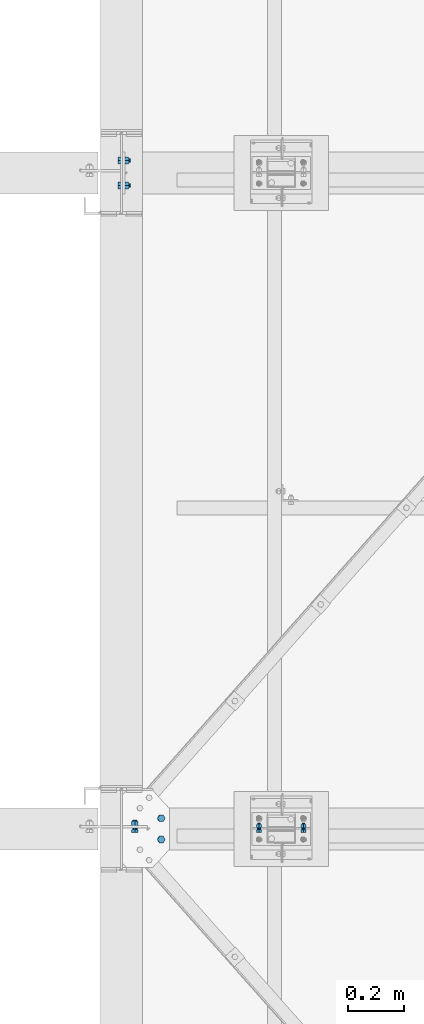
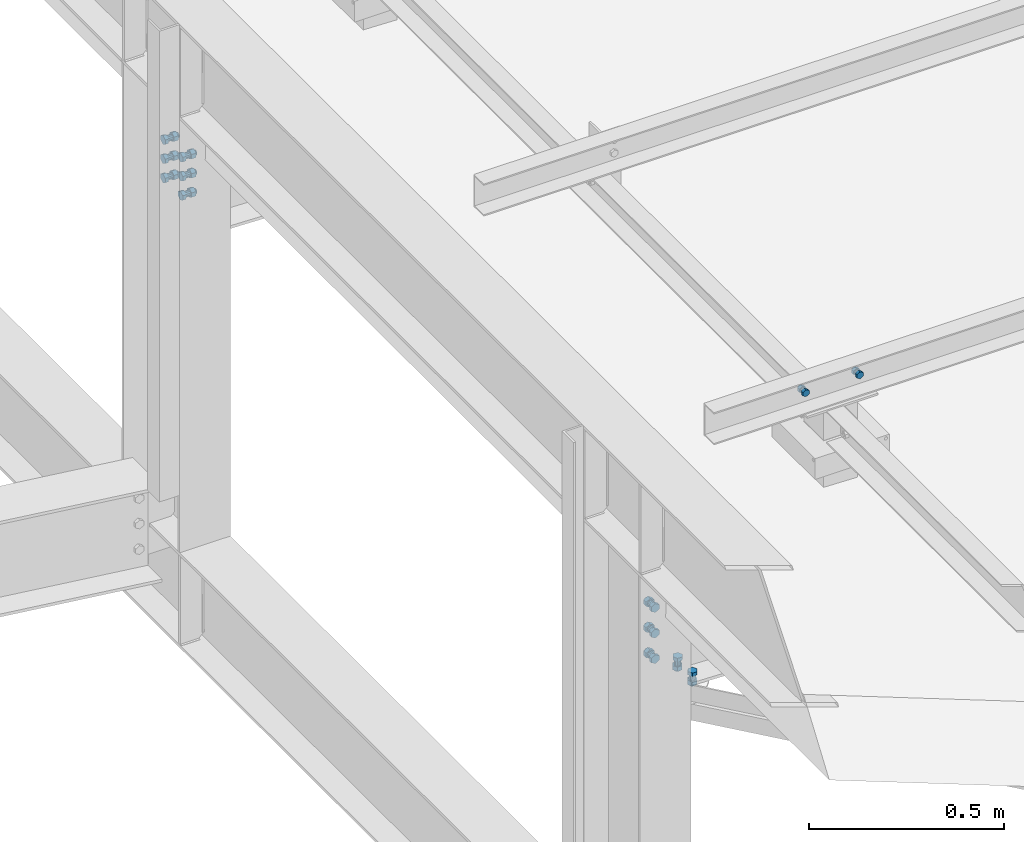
# One storey, part 324 of 3134: 4 mechanical fasteners, 2 elements without a shape of their own.
"""IFC2X3 building model written with IfcOpenShell, lengths in millimetres."""

from ifc_helpers import new_model, si_unit, frame, origin_with_axes, place, context, subcontext, project, spatial, faceted_brep, source, transform, mapped, material, type_object, element, aggregate, save


model = new_model("IFC2X3")

# Units and contexts
model_context = context("Model", 3, precision=1e-05, world=origin_with_axes())
body_context = subcontext(model_context, "Body", "Model", "MODEL_VIEW")
ifc_project = project(units=[si_unit("LENGTHUNIT", "METRE", prefix="MILLI"), si_unit("AREAUNIT", "SQUARE_METRE"), si_unit("VOLUMEUNIT", "CUBIC_METRE"), si_unit("MASSUNIT", "GRAM", prefix="KILO"), si_unit("TIMEUNIT", "SECOND"), si_unit("PLANEANGLEUNIT", "RADIAN"), si_unit("SOLIDANGLEUNIT", "STERADIAN"), si_unit("THERMODYNAMICTEMPERATUREUNIT", "DEGREE_CELSIUS"), si_unit("LUMINOUSINTENSITYUNIT", "LUMEN")], contexts=[model_context])

# Site, building, storey
site_placement = place(None, origin_with_axes())
site = spatial("IfcSite", under=ifc_project, at=site_placement, CompositionType="ELEMENT")
building_placement = place(site_placement, origin_with_axes())
building = spatial("IfcBuilding", under=site, at=building_placement, Name="Undefined", CompositionType="ELEMENT")
storey_placement = place(building_placement, origin_with_axes())
storey = spatial("IfcBuildingStorey", under=building, at=storey_placement, Name="Undefined", CompositionType="ELEMENT", Elevation=0.0)

# Assembly, mechanical fastener
assembly_1_placement = place(storey_placement, origin_with_axes())
assembly_1 = element("IfcElementAssembly", 1, at=assembly_1_placement, inside=storey, Name="300", AssemblyPlace="NOTDEFINED", PredefinedType="RIGID_FRAME")
ifc_material = material(Name="8.8")
mechanical_fastener_type = type_object("IfcMechanicalFastenerType", Name="Bolt assembly")
shared_shape_1 = source(origin_with_axes(), body_context, "Body", "Brep", [
    faceted_brep([(13.856406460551, -23.1999997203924, 0.0), (6.92820323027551, -23.1999997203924, 12.0), (-6.92820323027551, -23.1999997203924, 12.0), (-13.856406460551, -23.1999997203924, 1.69692038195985e-15), (-6.92820323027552, -23.1999997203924, -12.0), (6.9282032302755, -23.1999997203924, -12.0), (6.9282032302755, -13.1999997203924, -12.0), (-6.92820323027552, -13.1999997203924, -12.0), (-13.856406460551, -13.1999997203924, 1.69692038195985e-15), (-6.92820323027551, -13.1999997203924, 12.0), (6.92820323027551, -13.1999997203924, 12.0), (13.856406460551, -13.1999997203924, 0.0), (8.0, -13.1999997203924, 0.0), (6.92820323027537, -13.1999997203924, 4.00000000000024), (3.99999999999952, -13.1999997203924, 6.92820323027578), (-8.29068785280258e-13, -13.1999997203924, 8.0), (-4.00000000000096, -13.1999997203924, 6.92820323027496), (-6.9282032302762, -13.1999997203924, 3.99999999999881), (-8.0, -13.1999997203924, -1.65813757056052e-12), (-6.92820323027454, -13.1999997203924, -4.00000000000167), (-3.99999999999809, -13.1999997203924, -6.92820323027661), (2.47832457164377e-12, -13.1999997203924, -8.0), (4.00000000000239, -13.1999997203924, -6.92820323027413), (6.92820323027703, -13.1999997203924, -3.99999999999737), (6.92820323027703, 21.8000002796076, -3.99999999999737), (4.00000000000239, 21.8000002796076, -6.92820323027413), (2.47832457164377e-12, 21.8000002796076, -8.0), (-3.99999999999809, 21.8000002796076, -6.92820323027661), (-6.92820323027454, 21.8000002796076, -4.00000000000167), (-8.0, 21.8000002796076, -1.65813757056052e-12), (-6.9282032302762, 21.8000002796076, 3.99999999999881), (-4.00000000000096, 21.8000002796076, 6.92820323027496), (-8.29068785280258e-13, 21.8000002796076, 8.0), (3.99999999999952, 21.8000002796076, 6.92820323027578), (6.92820323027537, 21.8000002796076, 4.00000000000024), (8.0, 21.8000002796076, 0.0), (13.856406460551, 3.99999999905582, 0.0), (6.92820323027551, 3.99999999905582, 12.0), (-6.92820323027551, 3.99999999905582, 12.0), (-13.856406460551, 3.99999999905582, 1.69692038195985e-15), (-6.92820323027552, 3.99999999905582, -12.0), (6.9282032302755, 3.99999999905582, -12.0), (6.9282032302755, 16.9999999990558, -12.0), (-6.92820323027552, 16.9999999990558, -12.0), (-13.856406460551, 16.9999999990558, 1.69692038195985e-15), (-6.92820323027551, 16.9999999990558, 12.0), (6.92820323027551, 16.9999999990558, 12.0), (13.856406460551, 16.9999999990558, 0.0)], [[[0, 1, 2, 3, 4, 5]], [[6, 7, 8, 9, 10, 11]], [[0, 11, 10, 1]], [[1, 10, 9, 2]], [[2, 9, 8, 3]], [[3, 8, 7, 4]], [[4, 7, 6, 5]], [[5, 6, 11, 0]], [[12, 13, 14, 15, 16, 17, 18, 19, 20, 21, 22, 23]], [[24, 25, 26, 27, 28, 29, 30, 31, 32, 33, 34, 35]], [[12, 35, 34, 13]], [[13, 34, 33, 14]], [[14, 33, 32, 15]], [[15, 32, 31, 16]], [[16, 31, 30, 17]], [[17, 30, 29, 18]], [[18, 29, 28, 19]], [[19, 28, 27, 20]], [[20, 27, 26, 21]], [[21, 26, 25, 22]], [[22, 25, 24, 23]], [[23, 24, 35, 12]], [[36, 37, 38, 39, 40, 41]], [[42, 43, 44, 45, 46, 47]], [[36, 47, 46, 37]], [[37, 46, 45, 38]], [[38, 45, 44, 39]], [[39, 44, 43, 40]], [[40, 43, 42, 41]], [[41, 42, 47, 36]]]),
    faceted_brep([(9.0, -13.0999997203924, 0.0), (7.79422863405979, -13.0999997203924, 4.50000000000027), (4.49999999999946, -13.0999997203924, 7.79422863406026), (-9.3270238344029e-13, -13.0999997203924, 9.0), (-4.50000000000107, -13.0999997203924, 7.79422863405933), (-7.79422863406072, -13.0999997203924, 4.49999999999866), (-9.0, -13.0999997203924, -1.86540476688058e-12), (-7.79422863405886, -13.0999997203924, -4.50000000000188), (-4.49999999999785, -13.0999997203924, -7.79422863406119), (2.78811514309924e-12, -13.0999997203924, -9.0), (4.50000000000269, -13.0999997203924, -7.7942286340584), (7.79422863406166, -13.0999997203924, -4.49999999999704), (7.79422863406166, -3.9, -4.49999999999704), (4.50000000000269, -3.9, -7.7942286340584), (2.78811514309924e-12, -3.9, -9.0), (-4.49999999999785, -3.9, -7.79422863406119), (-7.79422863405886, -3.9, -4.50000000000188), (-9.0, -3.9, -1.86540476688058e-12), (-7.79422863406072, -3.9, 4.49999999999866), (-4.50000000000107, -3.9, 7.79422863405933), (-9.3270238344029e-13, -3.9, 9.0), (4.49999999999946, -3.9, 7.79422863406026), (7.79422863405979, -3.9, 4.50000000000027), (9.0, -3.9, 0.0), (9.0, -4.10000000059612, 0.0), (7.79422863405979, -4.10000000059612, 4.50000000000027), (4.49999999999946, -4.10000000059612, 7.79422863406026), (-9.3270238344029e-13, -4.10000000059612, 9.0), (-4.50000000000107, -4.10000000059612, 7.79422863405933), (-7.79422863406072, -4.10000000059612, 4.49999999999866), (-9.0, -4.10000000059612, -1.86540476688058e-12), (-7.79422863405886, -4.10000000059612, -4.50000000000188), (-4.49999999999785, -4.10000000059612, -7.79422863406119), (2.78811514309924e-12, -4.10000000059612, -9.0), (4.50000000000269, -4.10000000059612, -7.7942286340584), (7.79422863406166, -4.10000000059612, -4.49999999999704), (7.79422863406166, 4.00000375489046, -4.49999999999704), (4.50000000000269, 4.00000375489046, -7.7942286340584), (2.78811514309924e-12, 4.00000375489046, -9.0), (-4.49999999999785, 4.00000375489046, -7.79422863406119), (-7.79422863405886, 4.00000375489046, -4.50000000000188), (-9.0, 4.00000375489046, -1.86540476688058e-12), (-7.79422863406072, 4.00000375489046, 4.49999999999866), (-4.50000000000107, 4.00000375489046, 7.79422863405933), (-9.3270238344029e-13, 4.00000375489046, 9.0), (4.49999999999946, 4.00000375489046, 7.79422863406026), (7.79422863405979, 4.00000375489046, 4.50000000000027), (9.0, 4.00000375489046, 0.0)], [[[0, 1, 2, 3, 4, 5, 6, 7, 8, 9, 10, 11]], [[12, 13, 14, 15, 16, 17, 18, 19, 20, 21, 22, 23]], [[0, 23, 22, 1]], [[1, 22, 21, 2]], [[2, 21, 20, 3]], [[3, 20, 19, 4]], [[4, 19, 18, 5]], [[5, 18, 17, 6]], [[6, 17, 16, 7]], [[7, 16, 15, 8]], [[8, 15, 14, 9]], [[9, 14, 13, 10]], [[10, 13, 12, 11]], [[11, 12, 23, 0]], [[24, 25, 26, 27, 28, 29, 30, 31, 32, 33, 34, 35]], [[36, 37, 38, 39, 40, 41, 42, 43, 44, 45, 46, 47]], [[24, 47, 46, 25]], [[25, 46, 45, 26]], [[26, 45, 44, 27]], [[27, 44, 43, 28]], [[28, 43, 42, 29]], [[29, 42, 41, 30]], [[30, 41, 40, 31]], [[31, 40, 39, 32]], [[32, 39, 38, 33]], [[33, 38, 37, 34]], [[34, 37, 36, 35]], [[35, 36, 47, 24]]]),
])
mechanical_fastener_1_placement = place(assembly_1_placement, frame((67692.8635822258, 10010.0, 5134.42663529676), z_axis=(0.0, 1.0, 0.0), x_axis=(0.999519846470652, 0.0, -0.0309851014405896)))
mechanical_fastener_1 = element("IfcMechanicalFastener", 2, at=mechanical_fastener_1_placement, type_object=mechanical_fastener_type, material=ifc_material, Name="Bolt assembly", NominalDiameter=16.0, NominalLength=35.0, context=body_context, shape_type="MappedRepresentation", body=[
    mapped(shared_shape_1, transform((0.0, 0.0, -38.0))),
    mapped(shared_shape_1, transform((0.0, 0.0, 38.0))),
])

assembly_2_placement = place(storey_placement, origin_with_axes())
assembly_2 = element("IfcElementAssembly", 3, at=assembly_2_placement, inside=storey, AssemblyPlace="NOTDEFINED", PredefinedType="RIGID_FRAME")
shared_shape_2 = source(origin_with_axes(), body_context, "Body", "Brep", [
    faceted_brep([(10.9696551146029, -12.0, 0.0), (5.48482755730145, -12.0, 9.5), (-5.48482755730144, -12.0, 9.5), (-10.9696551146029, -12.0, 1.34339530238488e-15), (-5.48482755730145, -12.0, -9.5), (5.48482755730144, -12.0, -9.50000000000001), (5.48482755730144, -4.0, -9.50000000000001), (-5.48482755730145, -4.0, -9.5), (-10.9696551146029, -4.0, 1.34339530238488e-15), (-5.48482755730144, -4.0, 9.5), (5.48482755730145, -4.0, 9.5), (10.9696551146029, -4.0, 0.0), (6.0, -4.0, 0.0), (5.19615242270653, -4.0, 3.00000000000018), (2.99999999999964, -4.0, 5.19615242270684), (-6.21801588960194e-13, -4.0, 6.0), (-3.00000000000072, -4.0, 5.19615242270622), (-5.19615242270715, -4.0, 2.9999999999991), (-6.0, -4.0, -1.24360317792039e-12), (-5.19615242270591, -4.0, -3.00000000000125), (-2.99999999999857, -4.0, -5.19615242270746), (1.85874342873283e-12, -4.0, -6.0), (3.00000000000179, -4.0, -5.1961524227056), (5.19615242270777, -4.0, -2.99999999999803), (5.19615242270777, 21.0, -2.99999999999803), (3.00000000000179, 21.0, -5.1961524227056), (1.85874342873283e-12, 21.0, -6.0), (-2.99999999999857, 21.0, -5.19615242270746), (-5.19615242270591, 21.0, -3.00000000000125), (-6.0, 21.0, -1.24360317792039e-12), (-5.19615242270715, 21.0, 2.9999999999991), (-3.00000000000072, 21.0, 5.19615242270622), (-6.21801588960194e-13, 21.0, 6.0), (2.99999999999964, 21.0, 5.19615242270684), (5.19615242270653, 21.0, 3.00000000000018), (6.0, 21.0, 0.0), (10.9696551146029, 6.00000000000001, 0.0), (5.48482755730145, 6.00000000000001, 9.5), (-5.48482755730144, 6.00000000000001, 9.5), (-10.9696551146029, 6.00000000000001, 1.34339530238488e-15), (-5.48482755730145, 6.00000000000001, -9.5), (5.48482755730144, 6.00000000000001, -9.50000000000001), (5.48482755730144, 16.0, -9.50000000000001), (-5.48482755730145, 16.0, -9.5), (-10.9696551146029, 16.0, 1.34339530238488e-15), (-5.48482755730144, 16.0, 9.5), (5.48482755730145, 16.0, 9.5), (10.9696551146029, 16.0, 0.0)], [[[0, 1, 2, 3, 4, 5]], [[6, 7, 8, 9, 10, 11]], [[0, 11, 10, 1]], [[1, 10, 9, 2]], [[2, 9, 8, 3]], [[3, 8, 7, 4]], [[4, 7, 6, 5]], [[5, 6, 11, 0]], [[12, 13, 14, 15, 16, 17, 18, 19, 20, 21, 22, 23]], [[24, 25, 26, 27, 28, 29, 30, 31, 32, 33, 34, 35]], [[12, 35, 34, 13]], [[13, 34, 33, 14]], [[14, 33, 32, 15]], [[15, 32, 31, 16]], [[16, 31, 30, 17]], [[17, 30, 29, 18]], [[18, 29, 28, 19]], [[19, 28, 27, 20]], [[20, 27, 26, 21]], [[21, 26, 25, 22]], [[22, 25, 24, 23]], [[23, 24, 35, 12]], [[36, 37, 38, 39, 40, 41]], [[42, 43, 44, 45, 46, 47]], [[36, 47, 46, 37]], [[37, 46, 45, 38]], [[38, 45, 44, 39]], [[39, 44, 43, 40]], [[40, 43, 42, 41]], [[41, 42, 47, 36]]]),
    faceted_brep([(7.0, -3.9, 0.0), (6.06217782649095, -3.9, 3.50000000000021), (3.49999999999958, -3.9, 6.06217782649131), (-7.25435187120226e-13, -3.9, 7.0), (-3.50000000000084, -3.9, 6.06217782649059), (-6.06217782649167, -3.9, 3.49999999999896), (-7.0, -3.9, -1.45087037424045e-12), (-6.06217782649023, -3.9, -3.50000000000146), (-3.49999999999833, -3.9, -6.06217782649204), (2.1685340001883e-12, -3.9, -7.0), (3.50000000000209, -3.9, -6.06217782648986), (6.0621778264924, -3.9, -3.4999999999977), (6.0621778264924, 0.0999999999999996, -3.4999999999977), (3.50000000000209, 0.0999999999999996, -6.06217782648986), (2.1685340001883e-12, 0.0999999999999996, -7.0), (-3.49999999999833, 0.0999999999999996, -6.06217782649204), (-6.06217782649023, 0.0999999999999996, -3.50000000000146), (-7.0, 0.0999999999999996, -1.45087037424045e-12), (-6.06217782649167, 0.0999999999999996, 3.49999999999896), (-3.50000000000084, 0.0999999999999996, 6.06217782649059), (-7.25435187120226e-13, 0.0999999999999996, 7.0), (3.49999999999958, 0.0999999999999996, 6.06217782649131), (6.06217782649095, 0.0999999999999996, 3.50000000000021), (7.0, 0.0999999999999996, 0.0), (7.0, -0.1, 0.0), (6.06217782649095, -0.1, 3.50000000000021), (3.49999999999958, -0.1, 6.06217782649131), (-7.25435187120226e-13, -0.1, 7.0), (-3.50000000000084, -0.1, 6.06217782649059), (-6.06217782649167, -0.1, 3.49999999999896), (-7.0, -0.1, -1.45087037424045e-12), (-6.06217782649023, -0.1, -3.50000000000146), (-3.49999999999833, -0.1, -6.06217782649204), (2.1685340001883e-12, -0.1, -7.0), (3.50000000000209, -0.1, -6.06217782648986), (6.0621778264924, -0.1, -3.4999999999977), (6.0621778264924, 6.00000000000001, -3.4999999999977), (3.50000000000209, 6.00000000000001, -6.06217782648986), (2.1685340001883e-12, 6.00000000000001, -7.0), (-3.49999999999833, 6.00000000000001, -6.06217782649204), (-6.06217782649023, 6.00000000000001, -3.50000000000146), (-7.0, 6.00000000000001, -1.45087037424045e-12), (-6.06217782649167, 6.00000000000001, 3.49999999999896), (-3.50000000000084, 6.00000000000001, 6.06217782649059), (-7.25435187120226e-13, 6.00000000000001, 7.0), (3.49999999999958, 6.00000000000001, 6.06217782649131), (6.06217782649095, 6.00000000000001, 3.50000000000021), (7.0, 6.00000000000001, 0.0)], [[[0, 1, 2, 3, 4, 5, 6, 7, 8, 9, 10, 11]], [[12, 13, 14, 15, 16, 17, 18, 19, 20, 21, 22, 23]], [[0, 23, 22, 1]], [[1, 22, 21, 2]], [[2, 21, 20, 3]], [[3, 20, 19, 4]], [[4, 19, 18, 5]], [[5, 18, 17, 6]], [[6, 17, 16, 7]], [[7, 16, 15, 8]], [[8, 15, 14, 9]], [[9, 14, 13, 10]], [[10, 13, 12, 11]], [[11, 12, 23, 0]], [[24, 25, 26, 27, 28, 29, 30, 31, 32, 33, 34, 35]], [[36, 37, 38, 39, 40, 41, 42, 43, 44, 45, 46, 47]], [[24, 47, 46, 25]], [[25, 46, 45, 26]], [[26, 45, 44, 27]], [[27, 44, 43, 28]], [[28, 43, 42, 29]], [[29, 42, 41, 30]], [[30, 41, 40, 31]], [[31, 40, 39, 32]], [[32, 39, 38, 33]], [[33, 38, 37, 34]], [[34, 37, 36, 35]], [[35, 36, 47, 24]]]),
])
mechanical_fastener_2_placement = place(assembly_2_placement, frame((68125.0, 10010.0, 5885.0), z_axis=(1.0, 0.0, 0.0), x_axis=(0.0, 0.0, -1.0)))
mechanical_fastener_2 = element("IfcMechanicalFastener", 4, at=mechanical_fastener_2_placement, type_object=mechanical_fastener_type, material=ifc_material, Name="Bolt assembly", NominalDiameter=12.0, NominalLength=25.0, context=body_context, shape_type="MappedRepresentation", body=[
    mapped(shared_shape_2, transform((0.0, -5.32963895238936e-10, -79.9999999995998))),
    mapped(shared_shape_2, transform((0.0, 5.3114490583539e-10, 79.9999999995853))),
])
aggregate(assembly_2, [mechanical_fastener_2])

# Mechanical fastener
shared_shape_3 = source(origin_with_axes(), body_context, "Body", "Brep", [
    faceted_brep([(13.856406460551, -13.0499999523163, 0.0), (6.92820323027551, -13.0499999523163, 12.0), (-6.92820323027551, -13.0499999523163, 12.0), (-13.856406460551, -13.0499999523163, 1.69692038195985e-15), (-6.92820323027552, -13.0499999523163, -12.0), (6.9282032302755, -13.0499999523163, -12.0), (6.9282032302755, -3.04999995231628, -12.0), (-6.92820323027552, -3.04999995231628, -12.0), (-13.856406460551, -3.04999995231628, 1.69692038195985e-15), (-6.92820323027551, -3.04999995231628, 12.0), (6.92820323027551, -3.04999995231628, 12.0), (13.856406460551, -3.04999995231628, 0.0), (8.0, -3.04999995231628, 0.0), (6.92820323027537, -3.04999995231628, 4.00000000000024), (3.99999999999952, -3.04999995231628, 6.92820323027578), (-8.29068785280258e-13, -3.04999995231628, 8.0), (-4.00000000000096, -3.04999995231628, 6.92820323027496), (-6.9282032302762, -3.04999995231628, 3.99999999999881), (-8.0, -3.04999995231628, -1.65813757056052e-12), (-6.92820323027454, -3.04999995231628, -4.00000000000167), (-3.99999999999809, -3.04999995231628, -6.92820323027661), (2.47832457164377e-12, -3.04999995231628, -8.0), (4.00000000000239, -3.04999995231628, -6.92820323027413), (6.92820323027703, -3.04999995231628, -3.99999999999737), (6.92820323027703, 31.9500000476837, -3.99999999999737), (4.00000000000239, 31.9500000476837, -6.92820323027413), (2.47832457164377e-12, 31.9500000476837, -8.0), (-3.99999999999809, 31.9500000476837, -6.92820323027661), (-6.92820323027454, 31.9500000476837, -4.00000000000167), (-8.0, 31.9500000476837, -1.65813757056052e-12), (-6.9282032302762, 31.9500000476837, 3.99999999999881), (-4.00000000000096, 31.9500000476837, 6.92820323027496), (-8.29068785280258e-13, 31.9500000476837, 8.0), (3.99999999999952, 31.9500000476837, 6.92820323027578), (6.92820323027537, 31.9500000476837, 4.00000000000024), (8.0, 31.9500000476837, 0.0), (13.856406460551, 13.0500000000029, 0.0), (6.92820323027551, 13.0500000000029, 12.0), (-6.92820323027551, 13.0500000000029, 12.0), (-13.856406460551, 13.0500000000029, 1.69692038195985e-15), (-6.92820323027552, 13.0500000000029, -12.0), (6.9282032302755, 13.0500000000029, -12.0), (6.9282032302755, 26.0500000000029, -12.0), (-6.92820323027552, 26.0500000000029, -12.0), (-13.856406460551, 26.0500000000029, 1.69692038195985e-15), (-6.92820323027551, 26.0500000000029, 12.0), (6.92820323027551, 26.0500000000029, 12.0), (13.856406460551, 26.0500000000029, 0.0)], [[[0, 1, 2, 3, 4, 5]], [[6, 7, 8, 9, 10, 11]], [[0, 11, 10, 1]], [[1, 10, 9, 2]], [[2, 9, 8, 3]], [[3, 8, 7, 4]], [[4, 7, 6, 5]], [[5, 6, 11, 0]], [[12, 13, 14, 15, 16, 17, 18, 19, 20, 21, 22, 23]], [[24, 25, 26, 27, 28, 29, 30, 31, 32, 33, 34, 35]], [[12, 35, 34, 13]], [[13, 34, 33, 14]], [[14, 33, 32, 15]], [[15, 32, 31, 16]], [[16, 31, 30, 17]], [[17, 30, 29, 18]], [[18, 29, 28, 19]], [[19, 28, 27, 20]], [[20, 27, 26, 21]], [[21, 26, 25, 22]], [[22, 25, 24, 23]], [[23, 24, 35, 12]], [[36, 37, 38, 39, 40, 41]], [[42, 43, 44, 45, 46, 47]], [[36, 47, 46, 37]], [[37, 46, 45, 38]], [[38, 45, 44, 39]], [[39, 44, 43, 40]], [[40, 43, 42, 41]], [[41, 42, 47, 36]]]),
    faceted_brep([(9.0, -2.94999995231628, 0.0), (7.79422863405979, -2.94999995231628, 4.50000000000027), (4.49999999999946, -2.94999995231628, 7.79422863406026), (-9.3270238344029e-13, -2.94999995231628, 9.0), (-4.50000000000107, -2.94999995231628, 7.79422863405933), (-7.79422863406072, -2.94999995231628, 4.49999999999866), (-9.0, -2.94999995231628, -1.86540476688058e-12), (-7.79422863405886, -2.94999995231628, -4.50000000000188), (-4.49999999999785, -2.94999995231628, -7.79422863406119), (2.78811514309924e-12, -2.94999995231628, -9.0), (4.50000000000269, -2.94999995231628, -7.7942286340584), (7.79422863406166, -2.94999995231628, -4.49999999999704), (7.79422863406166, 3.14999995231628, -4.49999999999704), (4.50000000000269, 3.14999995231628, -7.7942286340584), (2.78811514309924e-12, 3.14999995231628, -9.0), (-4.49999999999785, 3.14999995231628, -7.79422863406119), (-7.79422863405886, 3.14999995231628, -4.50000000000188), (-9.0, 3.14999995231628, -1.86540476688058e-12), (-7.79422863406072, 3.14999995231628, 4.49999999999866), (-4.50000000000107, 3.14999995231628, 7.79422863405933), (-9.3270238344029e-13, 3.14999995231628, 9.0), (4.49999999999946, 3.14999995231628, 7.79422863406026), (7.79422863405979, 3.14999995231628, 4.50000000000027), (9.0, 3.14999995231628, 0.0), (9.0, 2.95000000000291, 0.0), (7.79422863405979, 2.95000000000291, 4.50000000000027), (4.49999999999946, 2.95000000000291, 7.79422863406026), (-9.3270238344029e-13, 2.95000000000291, 9.0), (-4.50000000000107, 2.95000000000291, 7.79422863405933), (-7.79422863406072, 2.95000000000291, 4.49999999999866), (-9.0, 2.95000000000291, -1.86540476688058e-12), (-7.79422863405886, 2.95000000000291, -4.50000000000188), (-4.49999999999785, 2.95000000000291, -7.79422863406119), (2.78811514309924e-12, 2.95000000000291, -9.0), (4.50000000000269, 2.95000000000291, -7.7942286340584), (7.79422863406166, 2.95000000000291, -4.49999999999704), (7.79422863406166, 13.0500000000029, -4.49999999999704), (4.50000000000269, 13.0500000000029, -7.7942286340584), (2.78811514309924e-12, 13.0500000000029, -9.0), (-4.49999999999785, 13.0500000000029, -7.79422863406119), (-7.79422863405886, 13.0500000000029, -4.50000000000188), (-9.0, 13.0500000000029, -1.86540476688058e-12), (-7.79422863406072, 13.0500000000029, 4.49999999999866), (-4.50000000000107, 13.0500000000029, 7.79422863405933), (-9.3270238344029e-13, 13.0500000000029, 9.0), (4.49999999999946, 13.0500000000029, 7.79422863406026), (7.79422863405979, 13.0500000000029, 4.50000000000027), (9.0, 13.0500000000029, 0.0)], [[[0, 1, 2, 3, 4, 5, 6, 7, 8, 9, 10, 11]], [[12, 13, 14, 15, 16, 17, 18, 19, 20, 21, 22, 23]], [[0, 23, 22, 1]], [[1, 22, 21, 2]], [[2, 21, 20, 3]], [[3, 20, 19, 4]], [[4, 19, 18, 5]], [[5, 18, 17, 6]], [[6, 17, 16, 7]], [[7, 16, 15, 8]], [[8, 15, 14, 9]], [[9, 14, 13, 10]], [[10, 13, 12, 11]], [[11, 12, 23, 0]], [[24, 25, 26, 27, 28, 29, 30, 31, 32, 33, 34, 35]], [[36, 37, 38, 39, 40, 41, 42, 43, 44, 45, 46, 47]], [[24, 47, 46, 25]], [[25, 46, 45, 26]], [[26, 45, 44, 27]], [[27, 44, 43, 28]], [[28, 43, 42, 29]], [[29, 42, 41, 30]], [[30, 41, 40, 31]], [[31, 40, 39, 32]], [[32, 39, 38, 33]], [[33, 38, 37, 34]], [[34, 37, 36, 35]], [[35, 36, 47, 24]]]),
])
mechanical_fastener_3_placement = place(assembly_1_placement, frame((67598.0481350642, 10010.0, 5369.94123685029), z_axis=(1.0, 0.0, 0.0), x_axis=(0.0, 0.0, -1.0)))
mechanical_fastener_3 = element("IfcMechanicalFastener", 5, at=mechanical_fastener_3_placement, type_object=mechanical_fastener_type, material=ifc_material, Name="Bolt assembly", NominalDiameter=16.0, NominalLength=35.0, context=body_context, shape_type="MappedRepresentation", body=[
    mapped(shared_shape_3, transform((0.0, 0.0, 0.0))),
    mapped(shared_shape_3, transform((80.0, 0.0, 0.0))),
    mapped(shared_shape_3, transform((160.0, 0.0, 0.0))),
])

shared_shape_4 = source(origin_with_axes(), body_context, "Body", "Brep", [
    faceted_brep([(13.856406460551, -26.1000002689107, 0.0), (6.92820323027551, -26.1000002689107, 12.0), (-6.92820323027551, -26.1000002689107, 12.0), (-13.856406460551, -26.1000002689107, 1.69692038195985e-15), (-6.92820323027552, -26.1000002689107, -12.0), (6.9282032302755, -26.1000002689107, -12.0), (6.9282032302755, -16.0999999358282, -12.0), (-6.92820323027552, -16.0999999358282, -12.0), (-13.856406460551, -16.0999999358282, 1.69692038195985e-15), (-6.92820323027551, -16.0999999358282, 12.0), (6.92820323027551, -16.0999999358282, 12.0), (13.856406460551, -16.0999999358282, 0.0), (8.0, -16.1000002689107, 0.0), (6.92820323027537, -16.1000002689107, 4.00000000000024), (3.99999999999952, -16.1000002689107, 6.92820323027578), (-8.29068785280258e-13, -16.1000002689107, 8.0), (-4.00000000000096, -16.1000002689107, 6.92820323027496), (-6.9282032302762, -16.1000002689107, 3.99999999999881), (-8.0, -16.1000002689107, -1.65813757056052e-12), (-6.92820323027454, -16.1000002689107, -4.00000000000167), (-3.99999999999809, -16.1000002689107, -6.92820323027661), (2.47832457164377e-12, -16.1000002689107, -8.0), (4.00000000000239, -16.1000002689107, -6.92820323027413), (6.92820323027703, -16.1000002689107, -3.99999999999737), (6.92820323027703, 18.8999997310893, -3.99999999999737), (4.00000000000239, 18.8999997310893, -6.92820323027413), (2.47832457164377e-12, 18.8999997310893, -8.0), (-3.99999999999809, 18.8999997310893, -6.92820323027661), (-6.92820323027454, 18.8999997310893, -4.00000000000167), (-8.0, 18.8999997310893, -1.65813757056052e-12), (-6.9282032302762, 18.8999997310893, 3.99999999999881), (-4.00000000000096, 18.8999997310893, 6.92820323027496), (-8.29068785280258e-13, 18.8999997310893, 8.0), (3.99999999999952, 18.8999997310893, 6.92820323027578), (6.92820323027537, 18.8999997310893, 4.00000000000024), (8.0, 18.8999997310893, 0.0), (13.856406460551, 0.0, 0.0), (6.92820323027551, 0.0, 12.0), (-6.92820323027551, 0.0, 12.0), (-13.856406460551, 0.0, 1.69692038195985e-15), (-6.92820323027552, 0.0, -12.0), (6.9282032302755, 0.0, -12.0), (6.9282032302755, 12.9999996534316, -12.0), (-6.92820323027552, 12.9999996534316, -12.0), (-13.856406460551, 12.9999996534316, 1.69692038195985e-15), (-6.92820323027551, 12.9999996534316, 12.0), (6.92820323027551, 12.9999996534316, 12.0), (13.856406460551, 12.9999996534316, 0.0)], [[[0, 1, 2, 3, 4, 5]], [[6, 7, 8, 9, 10, 11]], [[0, 11, 10, 1]], [[1, 10, 9, 2]], [[2, 9, 8, 3]], [[3, 8, 7, 4]], [[4, 7, 6, 5]], [[5, 6, 11, 0]], [[12, 13, 14, 15, 16, 17, 18, 19, 20, 21, 22, 23]], [[24, 25, 26, 27, 28, 29, 30, 31, 32, 33, 34, 35]], [[12, 35, 34, 13]], [[13, 34, 33, 14]], [[14, 33, 32, 15]], [[15, 32, 31, 16]], [[16, 31, 30, 17]], [[17, 30, 29, 18]], [[18, 29, 28, 19]], [[19, 28, 27, 20]], [[20, 27, 26, 21]], [[21, 26, 25, 22]], [[22, 25, 24, 23]], [[23, 24, 35, 12]], [[36, 37, 38, 39, 40, 41]], [[42, 43, 44, 45, 46, 47]], [[36, 47, 46, 37]], [[37, 46, 45, 38]], [[38, 45, 44, 39]], [[39, 44, 43, 40]], [[40, 43, 42, 41]], [[41, 42, 47, 36]]]),
    faceted_brep([(9.0, -10.1000003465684, 0.0), (7.79422863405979, -10.1000003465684, 4.50000000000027), (4.49999999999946, -10.1000003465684, 7.79422863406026), (-9.3270238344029e-13, -10.1000003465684, 9.0), (-4.50000000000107, -10.1000003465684, 7.79422863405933), (-7.79422863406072, -10.1000003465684, 4.49999999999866), (-9.0, -10.1000003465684, -1.86540476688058e-12), (-7.79422863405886, -10.1000003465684, -4.50000000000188), (-4.49999999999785, -10.1000003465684, -7.79422863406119), (2.78811514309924e-12, -10.1000003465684, -9.0), (4.50000000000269, -10.1000003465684, -7.7942286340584), (7.79422863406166, -10.1000003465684, -4.49999999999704), (7.79422863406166, -3.46568413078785e-07, -4.49999999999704), (4.50000000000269, -3.46568413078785e-07, -7.7942286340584), (2.78811514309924e-12, -3.46568413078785e-07, -9.0), (-4.49999999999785, -3.46568413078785e-07, -7.79422863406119), (-7.79422863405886, -3.46568413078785e-07, -4.50000000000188), (-9.0, -3.46568413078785e-07, -1.86540476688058e-12), (-7.79422863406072, -3.46568413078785e-07, 4.49999999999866), (-4.50000000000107, -3.46568413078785e-07, 7.79422863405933), (-9.3270238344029e-13, -3.46568413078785e-07, 9.0), (4.49999999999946, -3.46568413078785e-07, 7.79422863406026), (7.79422863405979, -3.46568413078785e-07, 4.50000000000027), (9.0, -3.46568413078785e-07, 0.0), (9.0, -16.0000002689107, 0.0), (7.79422863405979, -16.0000002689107, 4.50000000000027), (4.49999999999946, -16.0000002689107, 7.79422863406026), (-9.3270238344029e-13, -16.0000002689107, 9.0), (-4.50000000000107, -16.0000002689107, 7.79422863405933), (-7.79422863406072, -16.0000002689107, 4.49999999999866), (-9.0, -16.0000002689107, -1.86540476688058e-12), (-7.79422863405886, -16.0000002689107, -4.50000000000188), (-4.49999999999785, -16.0000002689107, -7.79422863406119), (2.78811514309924e-12, -16.0000002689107, -9.0), (4.50000000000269, -16.0000002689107, -7.7942286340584), (7.79422863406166, -16.0000002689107, -4.49999999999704), (7.79422863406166, -9.89999997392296, -4.49999999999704), (4.50000000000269, -9.89999997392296, -7.7942286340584), (2.78811514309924e-12, -9.89999997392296, -9.0), (-4.49999999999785, -9.89999997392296, -7.79422863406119), (-7.79422863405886, -9.89999997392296, -4.50000000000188), (-9.0, -9.89999997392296, -1.86540476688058e-12), (-7.79422863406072, -9.89999997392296, 4.49999999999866), (-4.50000000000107, -9.89999997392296, 7.79422863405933), (-9.3270238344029e-13, -9.89999997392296, 9.0), (4.49999999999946, -9.89999997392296, 7.79422863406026), (7.79422863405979, -9.89999997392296, 4.50000000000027), (9.0, -9.89999997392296, 0.0)], [[[0, 1, 2, 3, 4, 5, 6, 7, 8, 9, 10, 11]], [[12, 13, 14, 15, 16, 17, 18, 19, 20, 21, 22, 23]], [[0, 23, 22, 1]], [[1, 22, 21, 2]], [[2, 21, 20, 3]], [[3, 20, 19, 4]], [[4, 19, 18, 5]], [[5, 18, 17, 6]], [[6, 17, 16, 7]], [[7, 16, 15, 8]], [[8, 15, 14, 9]], [[9, 14, 13, 10]], [[10, 13, 12, 11]], [[11, 12, 23, 0]], [[24, 25, 26, 27, 28, 29, 30, 31, 32, 33, 34, 35]], [[36, 37, 38, 39, 40, 41, 42, 43, 44, 45, 46, 47]], [[24, 47, 46, 25]], [[25, 46, 45, 26]], [[26, 45, 44, 27]], [[27, 44, 43, 28]], [[28, 43, 42, 29]], [[29, 42, 41, 30]], [[30, 41, 40, 31]], [[31, 40, 39, 32]], [[32, 39, 38, 33]], [[33, 38, 37, 34]], [[34, 37, 36, 35]], [[35, 36, 47, 24]]]),
])
mechanical_fastener_4_placement = place(assembly_1_placement, frame((67563.0500003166, 12370.0, 5269.59113578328), z_axis=(0.0, 1.0, 0.0), x_axis=(0.0, 0.0, 1.0)))
mechanical_fastener_4 = element("IfcMechanicalFastener", 6, at=mechanical_fastener_4_placement, type_object=mechanical_fastener_type, material=ifc_material, Name="Bolt assembly", NominalDiameter=16.0, NominalLength=35.0, context=body_context, shape_type="MappedRepresentation", body=[
    mapped(shared_shape_4, transform((0.0, 0.0, -45.0))),
    mapped(shared_shape_4, transform((60.0, 0.0, -45.0))),
    mapped(shared_shape_4, transform((120.0, 0.0, -45.0))),
    mapped(shared_shape_4, transform((0.0, 0.0, 45.0))),
    mapped(shared_shape_4, transform((60.0, 0.0, 45.0))),
    mapped(shared_shape_4, transform((120.0, 0.0, 45.0))),
])

aggregate(assembly_1, [mechanical_fastener_3, mechanical_fastener_1, mechanical_fastener_4])

save(model, "model.ifc")
